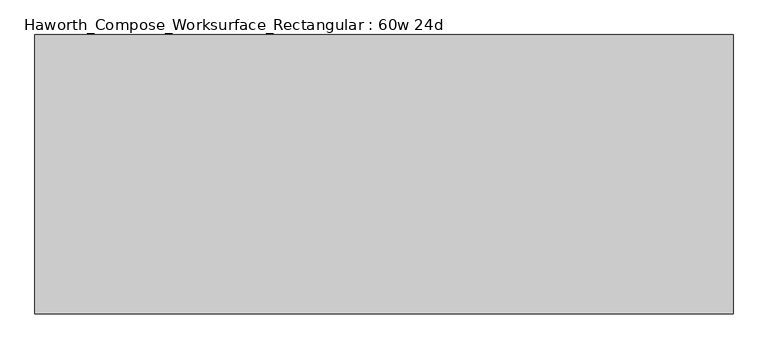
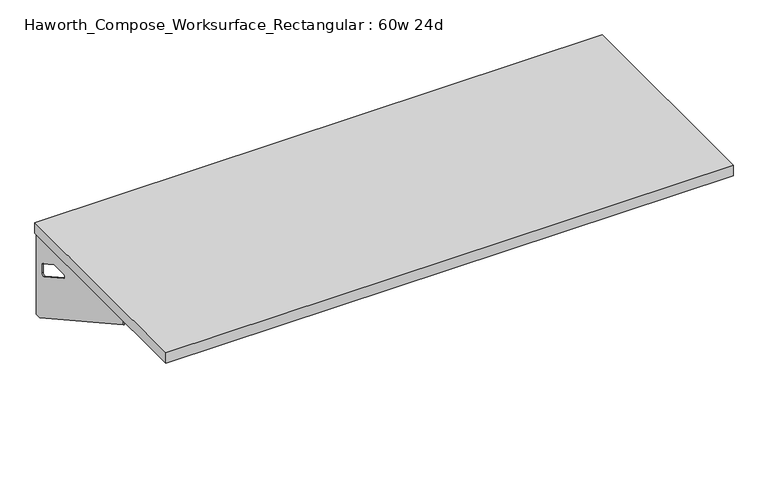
"""IFC4 building model written with IfcOpenShell, lengths in millimetres: furniture geometry, Haworth_Compose_Worksurface_Rectangular : 60w 24d."""

from ifc_helpers import new_model, si_unit, frame, origin, place, context, project, spatial, polyline, circle_curve, outline, extrude, source, transform, mapped, element, save
from ifc_brep_helpers import plane_surface, revolved_surface, advanced_brep


def haworth_compose_worksurface_rectangular_60w_24d_c3f7eb78(model_context):
    return source(origin(), model_context, "Body", "SolidModel", [
        advanced_brep(
        [(-756.44375, 304.8, 475.45625), (-756.44375, 304.8, 704.05625), (-756.44375, 288.925, 704.05625), (-756.44375, -101.6, 704.05625), (-756.44375, -101.6, 691.7192568), (-756.44375, 288.925, 475.45625), (-756.44375, 221.490072, 665.95625), (-756.44375, 224.5663437, 665.1613425), (-756.44375, 274.4730055, 637.5242776), (-756.44375, 276.225, 634.6860246), (-756.44375, 276.225, 611.1756969), (-756.44375, 266.8776173, 605.5776439), (-756.44375, 175.1564235, 656.3705539), (-756.44375, 177.8355284, 665.95625), (-758.825, 304.8, 475.45625), (-758.825, 288.925, 475.45625), (-758.825, -101.6, 691.7192568), (-758.825, -101.6, 706.4375), (-758.825, 288.925, 706.4375), (-758.825, 288.925, 704.05625), (-758.825, 304.8, 704.05625), (-758.825, 221.490072, 665.95625), (-758.825, 177.8355284, 665.95625), (-758.825, 175.1564235, 656.3705539), (-758.825, 266.8776173, 605.5776439), (-758.825, 276.225, 611.1756969), (-758.825, 276.225, 634.6860246), (-758.825, 274.4730055, 637.5242776), (-758.825, 224.5663437, 665.1613425), (-717.55, -101.6, 704.05625), (-717.55, -101.6, 706.4375), (-717.55, 288.925, 704.05625), (-717.55, 288.925, 706.4375)],
        [
            (0, 1),
            (1, 2),
            (2, 3),
            (3, 4),
            (4, 5),
            (5, 0),
            (6, 7, circle_curve(frame((-756.44375, 221.490072, 659.60625), z_axis=(-1.0, 0.0, 0.0), x_axis=(0.0, -1.0, 0.0)), 6.35)),
            (7, 8),
            (8, 9, circle_curve(frame((-756.44375, 273.05, 634.6860246), z_axis=(-1.0, 0.0, 0.0), x_axis=(0.0, -1.0, 0.0)), 3.175)),
            (9, 10),
            (10, 11, circle_curve(frame((-756.44375, 269.875, 611.1756969), z_axis=(-1.0, 0.0, 0.0), x_axis=(0.0, -1.0, 0.0)), 6.35)),
            (11, 12),
            (12, 13, circle_curve(frame((-756.44375, 177.8355284, 660.7890106), z_axis=(-1.0, 0.0, 0.0), x_axis=(0.0, -1.0, 0.0)), 5.1672394)),
            (13, 6),
            (14, 15),
            (15, 16),
            (16, 17),
            (17, 18),
            (18, 19),
            (19, 20),
            (20, 14),
            (21, 22),
            (22, 23, circle_curve(frame((-758.825, 177.8355284, 660.7890106), z_axis=(1.0, 0.0, 0.0), x_axis=(0.0, -1.0, 0.0)), 5.1672394)),
            (23, 24),
            (24, 25, circle_curve(frame((-758.825, 269.875, 611.1756969), z_axis=(1.0, 0.0, 0.0), x_axis=(0.0, -1.0, 0.0)), 6.35)),
            (25, 26),
            (26, 27, circle_curve(frame((-758.825, 273.05, 634.6860246), z_axis=(1.0, 0.0, 0.0), x_axis=(0.0, -1.0, 0.0)), 3.175)),
            (27, 28),
            (28, 21, circle_curve(frame((-758.825, 221.490072, 659.60625), z_axis=(1.0, 0.0, 0.0), x_axis=(0.0, -1.0, 0.0)), 6.35)),
            (1, 20),
            (19, 2),
            (0, 14),
            (5, 15),
            (4, 16),
            (3, 29),
            (29, 30),
            (30, 17),
            (13, 22),
            (21, 6),
            (10, 25),
            (24, 11),
            (9, 26),
            (8, 27),
            (12, 23),
            (31, 29),
            (2, 31),
            (32, 18),
            (30, 32),
            (32, 31),
            (7, 28),
        ],
        [
            plane_surface(frame((-756.44375, 304.8, 475.45625), z_axis=(1.0, 0.0, 0.0), x_axis=(0.0, 1.0, 0.0))),
            plane_surface(frame((-758.825, 304.8, 475.45625), z_axis=(-1.0, 0.0, 0.0), x_axis=(0.0, -1.0, 0.0))),
            plane_surface(frame((-758.825, -101.6, 704.05625), z_axis=(0.0, 0.0, 1.0), x_axis=(1.0, 0.0, 0.0))),
            plane_surface(frame((-758.825, 304.8, 704.05625), z_axis=(0.0, 1.0, 0.0), x_axis=(1.0, 0.0, 0.0))),
            plane_surface(frame((-758.825, 304.8, 475.45625), z_axis=(0.0, 0.0, -1.0), x_axis=(1.0, 0.0, 0.0))),
            plane_surface(frame((-758.825, 288.925, 475.45625), z_axis=(0.0, -0.48445223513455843, -0.8748177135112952), x_axis=(1.0, 0.0, 0.0))),
            plane_surface(frame((-758.825, -101.6, 691.7192568), z_axis=(0.0, -1.0, 0.0), x_axis=(1.0, 0.0, 0.0))),
            plane_surface(frame((-758.825, 221.490072, 665.95625), z_axis=(0.0, 0.0, -1.0), x_axis=(1.0, 0.0, 0.0))),
            revolved_surface(polyline([(-756.44375, 263.525, 611.1756969), (-758.825, 263.525, 611.1756969)]), (-758.825, 269.875, 611.1756969), (1.0, 0.0, 0.0)),
            plane_surface(frame((-758.825, 276.225, 611.1756969), z_axis=(0.0, -1.0, 0.0), x_axis=(1.0, 0.0, 0.0))),
            revolved_surface(polyline([(-756.44375, 269.875, 634.6860246), (-758.825, 269.875, 634.6860246)]), (-758.825, 273.05, 634.6860246), (1.0, 0.0, 0.0)),
            revolved_surface(polyline([(-756.44375, 172.668289, 660.7890106), (-758.825, 172.668289, 660.7890106)]), (-758.825, 177.8355284, 660.7890106), (1.0, 0.0, 0.0)),
            plane_surface(frame((-758.825, 288.925, 704.05625), z_axis=(0.0, 0.0, -1.0), x_axis=(1.0, 0.0, 0.0))),
            plane_surface(frame((-758.825, 288.925, 706.4375), z_axis=(0.0, 0.0, 1.0), x_axis=(-1.0, 0.0, 0.0))),
            plane_surface(frame((-717.55, 288.925, 706.4375), z_axis=(0.0, 1.0, 0.0), x_axis=(0.0, 0.0, -1.0))),
            plane_surface(frame((-717.55, -101.6, 706.4375), z_axis=(1.0, 0.0, 0.0), x_axis=(0.0, 0.0, -1.0))),
            plane_surface(frame((-758.825, 175.1564235, 656.3705539), z_axis=(0.0, 0.4844522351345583, 0.8748177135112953), x_axis=(1.0, 0.0, 0.0))),
            plane_surface(frame((-758.825, 274.4730055, 637.5242776), z_axis=(0.0, -0.4844522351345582, -0.8748177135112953), x_axis=(1.0, 0.0, 0.0))),
            revolved_surface(polyline([(-756.44375, 215.140072, 659.60625), (-758.825, 215.140072, 659.60625)]), (-758.825, 221.490072, 659.60625), (1.0, 0.0, 0.0)),
        ],
        [
            (0, [[1, 2, 3, 4, 5, 6], [7, 8, 9, 10, 11, 12, 13, 14]]),
            (1, [[15, 16, 17, 18, 19, 20, 21], [22, 23, 24, 25, 26, 27, 28, 29]]),
            (2, [[30, -20, 31, -2]]),
            (3, [[-1, 32, -21, -30]]),
            (4, [[-6, 33, -15, -32]]),
            (5, [[-5, 34, -16, -33]]),
            (6, [[-4, 35, 36, 37, -17, -34]]),
            (7, [[-14, 38, -22, 39]]),
            (8, [[-11, 40, -25, 41]]),
            (9, [[-10, 42, -26, -40]]),
            (10, [[-9, 43, -27, -42]]),
            (11, [[-13, 44, -23, -38]]),
            (12, [[45, -35, -3, 46]]),
            (13, [[47, -18, -37, 48]]),
            (14, [[-47, 49, -46, -31, -19]]),
            (15, [[-45, -49, -48, -36]]),
            (16, [[-12, -41, -24, -44]]),
            (17, [[-8, 50, -28, -43]]),
            (18, [[-7, -39, -29, -50]]),
        ],
    ),
        extrude(outline(polyline([(762.0, 304.8), (762.0, -304.8), (-762.0, -304.8), (-762.0, 304.8), (762.0, 304.8)])), frame((0.0, 0.0, 706.4375), z_axis=(0.0, 0.0, 1.0), x_axis=(1.0, 0.0, 0.0)), (0.0, 0.0, 1.0), 30.1625),
    ])


if __name__ == "__main__":
    model = new_model("IFC4")
    model_context = context("Model", 3, world=origin())
    ifc_project = project(units=[si_unit("LENGTHUNIT", "METRE", prefix="MILLI")], contexts=[model_context])
    site = spatial("IfcSite", under=ifc_project)
    building = spatial("IfcBuilding", under=site)
    placement = place(None, origin())
    haworth_compose_worksurface_rectangular_60w_24d_shape = haworth_compose_worksurface_rectangular_60w_24d_c3f7eb78(model_context)
    element("IfcFurniture", 1, ObjectType="Haworth_Compose_Worksurface_Rectangular : 60w 24d", at=placement, inside=building, context=model_context, shape_type="MappedRepresentation", body=[
        mapped(haworth_compose_worksurface_rectangular_60w_24d_shape, transform((0.0, 0.0, 0.0), x_axis=(1.0, 0.0, 0.0), y_axis=(0.0, 1.0, 0.0), z_axis=(0.0, 0.0, 1.0))),
    ])
    save(model, "model.ifc")
